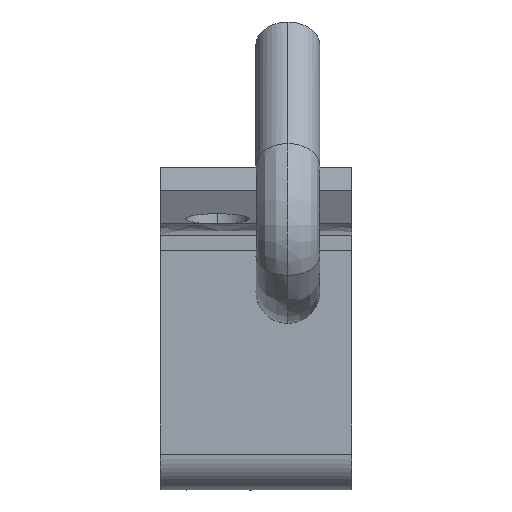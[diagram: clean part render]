
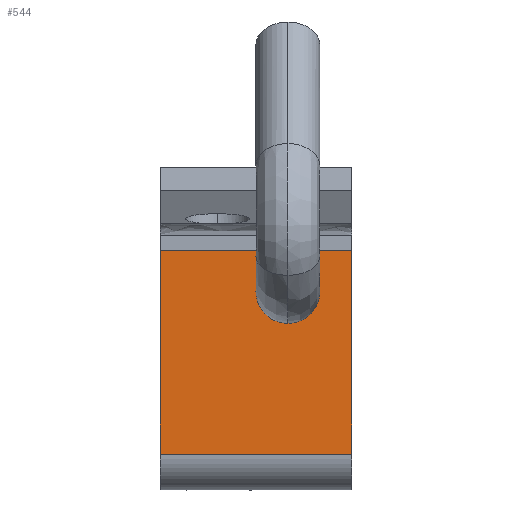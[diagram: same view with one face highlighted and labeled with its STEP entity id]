
A CAD part, left-side view. The second image highlights one B-rep face of the part: STEP entity #544.
In plain terms, the highlighted planar face has unit normal (-1, 0, 0).
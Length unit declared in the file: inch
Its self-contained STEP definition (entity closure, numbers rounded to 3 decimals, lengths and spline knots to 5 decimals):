
#260=EDGE_CURVE('',#690,#691,#692,.T.);
#274=EDGE_CURVE('',#717,#691,#718,.T.);
#324=EDGE_CURVE('',#803,#804,#805,.T.);
#380=EDGE_CURVE('',#891,#717,#892,.T.);
#382=EDGE_CURVE('',#690,#891,#894,.T.);
#496=EDGE_CURVE('',#804,#803,#1052,.T.);
#544=ADVANCED_FACE('',(#1112,#1113),#1114,.T.);
#690=VERTEX_POINT('',#1282);
#691=VERTEX_POINT('',#1283);
#692=LINE('',#1284,#1285);
#717=VERTEX_POINT('',#1323);
#718=LINE('',#1324,#1325);
#803=VERTEX_POINT('',#1493);
#804=VERTEX_POINT('',#1494);
#805=CIRCLE('',#1495,0.25);
#891=VERTEX_POINT('',#1729);
#892=LINE('',#1730,#1731);
#894=LINE('',#1734,#1735);
#1052=CIRCLE('',#2559,0.25);
#1112=FACE_OUTER_BOUND('',#2651,.T.);
#1113=FACE_BOUND('',#2652,.T.);
#1114=PLANE('',#2653);
#1282=CARTESIAN_POINT('',(5.03585,1.0,-0.09806));
#1283=CARTESIAN_POINT('',(5.03585,-0.5,-0.09806));
#1284=CARTESIAN_POINT('',(5.03585,1.0,-0.09806));
#1285=VECTOR('',#2956,1.0);
#1323=CARTESIAN_POINT('',(5.03585,-0.5,-1.69182));
#1324=CARTESIAN_POINT('',(5.03585,-0.5,-0.09806));
#1325=VECTOR('',#2966,1.0);
#1493=CARTESIAN_POINT('',(5.03585,0.,-0.16842));
#1494=CARTESIAN_POINT('',(5.03585,0.,-0.66842));
#1495=AXIS2_PLACEMENT_3D('',#3029,#3030,#3031);
#1729=CARTESIAN_POINT('',(5.03585,1.0,-1.69182));
#1730=CARTESIAN_POINT('',(5.03585,1.0,-1.69182));
#1731=VECTOR('',#3148,1.0);
#1734=CARTESIAN_POINT('',(5.03585,1.0,-0.09806));
#1735=VECTOR('',#3149,1.0);
#2559=AXIS2_PLACEMENT_3D('',#3360,#3361,#3362);
#2651=EDGE_LOOP('',(#3452,#3453,#3454,#3455));
#2652=EDGE_LOOP('',(#3456,#3457));
#2653=AXIS2_PLACEMENT_3D('',#3458,#3459,#3460);
#2956=DIRECTION('',(0.0,-1.0,0.0));
#2966=DIRECTION('',(0.0,0.0,1.0));
#3029=CARTESIAN_POINT('',(5.03585,0.0,-0.41842));
#3030=DIRECTION('',(-1.0,0.0,0.0));
#3031=DIRECTION('',(0.0,0.0,1.0));
#3148=DIRECTION('',(0.0,-1.0,0.0));
#3149=DIRECTION('',(0.0,0.0,-1.0));
#3360=CARTESIAN_POINT('',(5.03585,0.0,-0.41842));
#3361=DIRECTION('',(-1.0,0.0,0.0));
#3362=DIRECTION('',(0.0,0.0,1.0));
#3452=ORIENTED_EDGE('',*,*,#274,.T.);
#3453=ORIENTED_EDGE('',*,*,#260,.F.);
#3454=ORIENTED_EDGE('',*,*,#382,.T.);
#3455=ORIENTED_EDGE('',*,*,#380,.T.);
#3456=ORIENTED_EDGE('',*,*,#496,.F.);
#3457=ORIENTED_EDGE('',*,*,#324,.F.);
#3458=CARTESIAN_POINT('',(5.03585,1.0,-0.89494));
#3459=DIRECTION('',(-1.0,0.0,0.0));
#3460=DIRECTION('',(0.0,0.0,-1.0));
